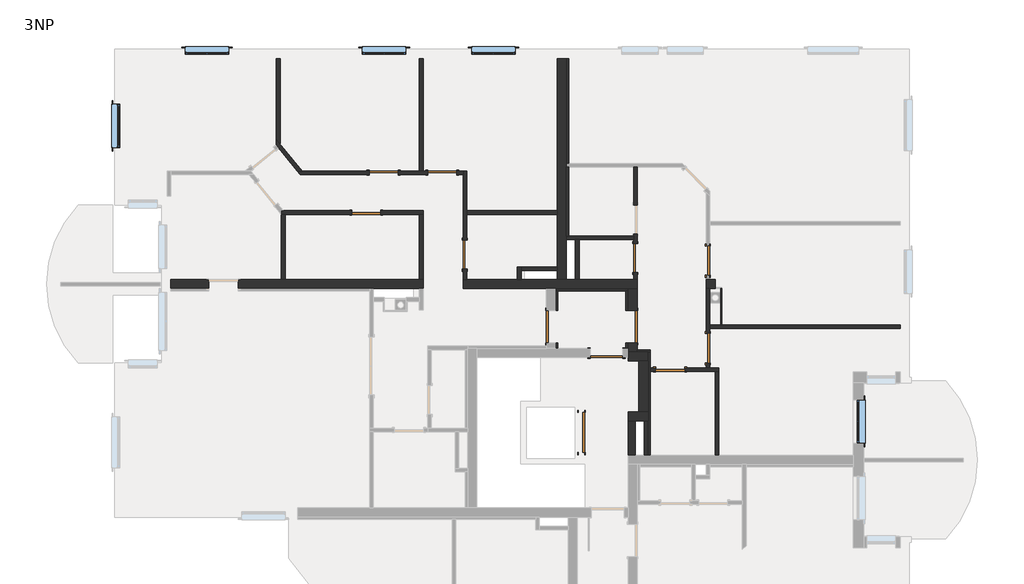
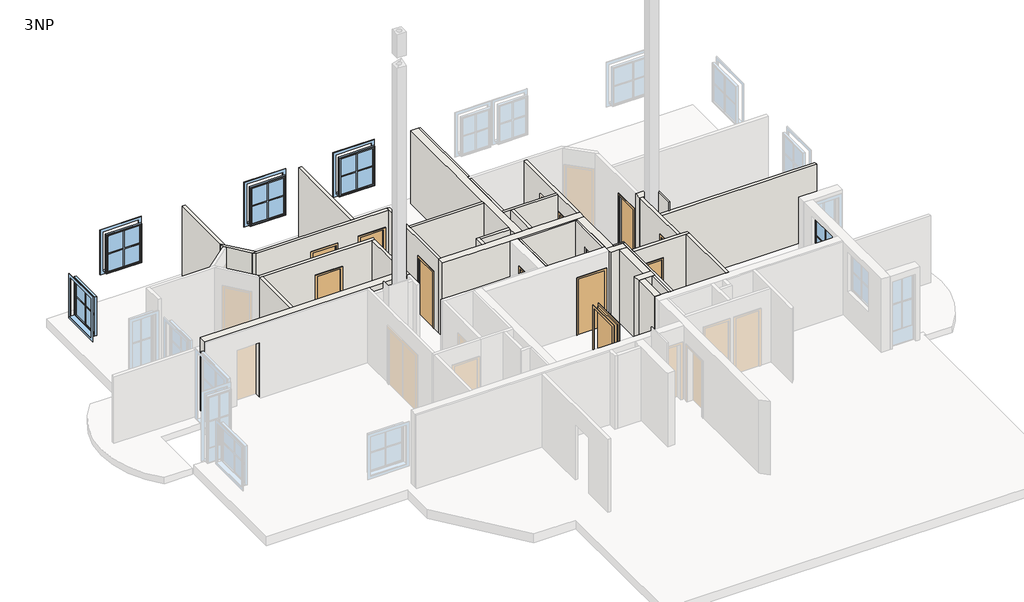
# One storey, part 3 of 4: 36 walls, 12 doors, 5 windows.
"""IFC4 building model written with IfcOpenShell, lengths in millimetres."""

import ifcopenshell
import ifcopenshell.guid

model = None  # the IFC model being written
_history = None  # IfcOwnerHistory: only IFC2X3 demands one
_inside = {}  # id of a spatial element -> (the spatial element, [elements in it])
_under = {}  # id of a project, library or spatial element -> (it, [spatial elements below it])
_declared = {}  # id of a project -> (the project, [libraries it declares])
_typed = {}  # id of a type object -> (the type object, [elements of that type])
_made_of = {}  # id of a material, layer set ... -> (it, [elements and type objects made of it])


def new_model(schema):
    """Start an empty IFC model of exactly this schema.

    Asked for "IFC4X3", IfcOpenShell would pick the latest addendum, in which some entities
    have other attributes; the version numbers below select the first issue.
    IFC2X3 requires an IfcOwnerHistory on every rooted entity: one is made here for all.
    """
    global model, _history
    if schema == "IFC4X3":
        model = ifcopenshell.file(schema_version=(4, 3, 0, 0))
    else:
        model = ifcopenshell.file(schema=schema)
    _inside.clear()
    _under.clear()
    _declared.clear()
    _typed.clear()
    _made_of.clear()
    _history = None
    if model.schema == "IFC2X3":
        org = make("IfcOrganization", Name="unknown")
        user = make(
            "IfcPersonAndOrganization",
            ThePerson=make("IfcPerson", FamilyName="unknown"),
            TheOrganization=org,
        )
        app = make(
            "IfcApplication",
            ApplicationDeveloper=org,
            Version="unknown",
            ApplicationFullName="unknown",
            ApplicationIdentifier="unknown",
        )
        _history = make(
            "IfcOwnerHistory",
            OwningUser=user,
            OwningApplication=app,
            ChangeAction="ADDED",
            CreationDate=0,
        )
    return model


def make(cls, **values):
    """One entity of the class cls with the attributes given. An attribute that is None is left unset."""
    return model.create_entity(
        cls, **{name: value for name, value in values.items() if value is not None}
    )


def rooted(cls, **values):
    """An entity with a GlobalId (a new one), such as an element, a storey or a relation."""
    return make(cls, GlobalId=ifcopenshell.guid.new(), OwnerHistory=_history, **values)


def si_unit(unit_type, name, prefix=None):
    """IfcSIUnit, for example si_unit("LENGTHUNIT", "METRE", prefix="MILLI")."""
    return make("IfcSIUnit", UnitType=unit_type, Prefix=prefix, Name=name)


def assignment(units):
    """IfcUnitAssignment: the units of a project."""
    return None if units is None else make("IfcUnitAssignment", Units=units)


def point(xyz):
    """IfcCartesianPoint."""
    return None if xyz is None else make("IfcCartesianPoint", Coordinates=xyz)


def direction(xyz):
    """IfcDirection."""
    return None if xyz is None else make("IfcDirection", DirectionRatios=xyz)


def frame(location, z_axis=None, x_axis=None):
    """IfcAxis2Placement3D, a coordinate frame: its origin and axes. An axis left out is left unset."""
    return make(
        "IfcAxis2Placement3D",
        Location=point(location),
        Axis=direction(z_axis),
        RefDirection=direction(x_axis),
    )


def origin():
    """The frame at (0, 0, 0) with its axes left unset."""
    return frame((0.0, 0.0, 0.0))


def origin_with_axes():
    """The frame at (0, 0, 0) with the z axis (0, 0, 1) and the x axis (1, 0, 0) written out."""
    return frame((0.0, 0.0, 0.0), z_axis=(0.0, 0.0, 1.0), x_axis=(1.0, 0.0, 0.0))


def place(relative_to, where):
    """IfcLocalPlacement: puts the frame where relative to a parent placement (None: the world)."""
    return make(
        "IfcLocalPlacement", PlacementRelTo=relative_to, RelativePlacement=where
    )


def context(
    kind, dimensions, precision=None, world=None, true_north=None, identifier=None
):
    """IfcGeometricRepresentationContext, for example the 3D "Model" context."""
    return make(
        "IfcGeometricRepresentationContext",
        ContextIdentifier=identifier,
        ContextType=kind,
        CoordinateSpaceDimension=dimensions,
        Precision=precision,
        WorldCoordinateSystem=world,
        TrueNorth=true_north,
    )


def project(units=None, contexts=None):
    """IfcProject with its units and contexts."""
    return rooted(
        "IfcProject",
        Name="project",
        RepresentationContexts=contexts,
        UnitsInContext=assignment(units),
    )


def spatial(cls, under=None, at=None, **own):
    """A site, building, storey or space (cls), placed at a placement, below another one or the project."""
    s = rooted(cls, ObjectPlacement=at, **own)
    if under is not None:
        _under.setdefault(under.id(), (under, []))[1].append(s)
    return s


def polyline(points):
    """IfcPolyline through the points."""
    return make("IfcPolyline", Points=[point(p) for p in points])


def outline(outer, holes=None, kind="AREA"):
    """IfcArbitraryClosedProfileDef: a profile drawn as a closed curve; with holes, ...WithVoids."""
    if holes is None:
        return make("IfcArbitraryClosedProfileDef", ProfileType=kind, OuterCurve=outer)
    return make(
        "IfcArbitraryProfileDefWithVoids",
        ProfileType=kind,
        OuterCurve=outer,
        InnerCurves=holes,
    )


def extrude(swept, where, along, depth):
    """IfcExtrudedAreaSolid: the profile swept, set in the frame where, extruded along a direction by depth."""
    return make(
        "IfcExtrudedAreaSolid",
        SweptArea=swept,
        Position=where,
        ExtrudedDirection=direction(along),
        Depth=depth,
    )


def faces_of(points, faces, orient=None, outer=None):
    """IfcFace entities. A face is a list of loops; a loop is a list of indices into points, from 0.

    orient and outer hold one flag for each loop. By default every Orientation is true, the
    first loop of a face is its IfcFaceOuterBound and the others are IfcFaceBound.
    """
    made = []
    for i, loops in enumerate(faces):
        bounds = []
        for j, loop in enumerate(loops):
            is_outer = j == 0 if outer is None else outer[i][j]
            bounds.append(
                make(
                    "IfcFaceOuterBound" if is_outer else "IfcFaceBound",
                    Bound=make("IfcPolyLoop", Polygon=[points[k] for k in loop]),
                    Orientation=True if orient is None else orient[i][j],
                )
            )
        made.append(make("IfcFace", Bounds=bounds))
    return made


def faceted_brep(points, faces, orient=None, outer=None, voids=None):
    """IfcFacetedBrep: a solid bounded by flat faces; with voids (closed shells), ...WithVoids."""
    shared = [point(p) for p in points]
    hull = make("IfcClosedShell", CfsFaces=faces_of(shared, faces, orient, outer))
    if voids is None:
        return make("IfcFacetedBrep", Outer=hull)
    return make(
        "IfcFacetedBrepWithVoids",
        Outer=hull,
        Voids=[
            make(cls, CfsFaces=faces_of(shared, fs, o, b)) for cls, fs, o, b in voids
        ],
    )


def shape(context_of_items, identifier, shape_type, items):
    """IfcShapeRepresentation: the items that make up one representation, for example the "Body"."""
    return make(
        "IfcShapeRepresentation",
        ContextOfItems=context_of_items,
        RepresentationIdentifier=identifier,
        RepresentationType=shape_type,
        Items=items,
    )


def source(mapping_origin, context_of_items, identifier, shape_type, items):
    """IfcRepresentationMap: a shape defined once, which mapped items show again and again."""
    return make(
        "IfcRepresentationMap",
        MappingOrigin=mapping_origin,
        MappedRepresentation=shape(context_of_items, identifier, shape_type, items),
    )


def transform(
    local_origin,
    x_axis=None,
    y_axis=None,
    z_axis=None,
    scale=None,
    scale2=None,
    scale3=None,
    uniform=True,
):
    """IfcCartesianTransformationOperator3D, or its non-uniform kind. x_axis, y_axis, z_axis: its Axis1, 2, 3."""
    if uniform:
        return make(
            "IfcCartesianTransformationOperator3D",
            Axis1=direction(x_axis),
            Axis2=direction(y_axis),
            LocalOrigin=point(local_origin),
            Scale=scale,
            Axis3=direction(z_axis),
        )
    return make(
        "IfcCartesianTransformationOperator3DnonUniform",
        Axis1=direction(x_axis),
        Axis2=direction(y_axis),
        LocalOrigin=point(local_origin),
        Scale=scale,
        Axis3=direction(z_axis),
        Scale2=scale2,
        Scale3=scale3,
    )


def mapped(mapping_source, mapping_target):
    """IfcMappedItem: shows the shape of a source again, moved by a transform."""
    return make(
        "IfcMappedItem", MappingSource=mapping_source, MappingTarget=mapping_target
    )


def made_of(thing, what):
    """Note that an element or type object is made of a material, layer set ...; save() writes the relation."""
    if what is not None:
        _made_of.setdefault(what.id(), (what, []))[1].append(thing)
    return thing


def element(
    cls,
    number,
    at=None,
    inside=None,
    cuts=None,
    type_object=None,
    material=None,
    context=None,
    identifier="Body",
    shape_type=None,
    held_by="IfcProductDefinitionShape",
    body=None,
    shapes=None,
    **own,
):
    """One element of the class cls, such as IfcWall. Its Tag is "e" and its number.

    at: its placement. inside: the storey or other place that contains it. cuts: it is an
    opening in that element (IfcRelVoidsElement). A single representation is given by context,
    identifier, shape_type and body (its items); several are given by shapes. held_by: the class
    of the entity that holds the representations. save() writes the other relations.
    """
    e = rooted(cls, Tag="e%d" % number, ObjectPlacement=at, **own)
    if body is not None:
        shapes = [shape(context, identifier, shape_type, body)]
    if shapes is not None:
        e.Representation = make(held_by, Representations=shapes)
    if inside is not None:
        _inside.setdefault(inside.id(), (inside, []))[1].append(e)
    if cuts is not None:
        rooted(
            "IfcRelVoidsElement", RelatingBuildingElement=cuts, RelatedOpeningElement=e
        )
    if type_object is not None:
        _typed.setdefault(type_object.id(), (type_object, []))[1].append(e)
    return made_of(e, material)


def aggregate(whole, parts):
    """IfcRelAggregates: a whole, such as a stair, and the parts it consists of."""
    return rooted("IfcRelAggregates", RelatingObject=whole, RelatedObjects=parts)


def save(model, path):
    """Write the relations noted so far, then the file.

    IfcRelAggregates (storeys below a building ...), IfcRelContainedInSpatialStructure (elements
    in a storey), IfcRelDefinesByType, IfcRelAssociatesMaterial and IfcRelDeclares: one each for
    every whole, place, type object, material and project.
    """
    for whole, parts in _under.values():
        aggregate(whole, parts)
    for where, things in _inside.values():
        rooted(
            "IfcRelContainedInSpatialStructure",
            RelatedElements=things,
            RelatingStructure=where,
        )
    for kind, things in _typed.values():
        rooted("IfcRelDefinesByType", RelatedObjects=things, RelatingType=kind)
    for what, things in _made_of.values():
        rooted("IfcRelAssociatesMaterial", RelatedObjects=things, RelatingMaterial=what)
    for by, libraries in _declared.values():
        rooted("IfcRelDeclares", RelatingContext=by, RelatedDefinitions=libraries)
    model.write(path)


def sd_1100x2000_1d62120a(model_context):
    return source(origin(), model_context, "Body", "SweptSolid", [
        extrude(outline(polyline([(2060.0, -610.0), (0.0, -610.0), (0.0, -550.0), (2000.0, -550.0), (2000.0, 550.0), (0.0, 550.0), (0.0, 610.0), (2060.0, 610.0), (2060.0, -610.0)])), frame((0.0, 85.0, 0.0), z_axis=(0.0, 1.0, 0.0), x_axis=(0.0, 0.0, 1.0)), (0.0, 0.0, 1.0), 20.0),
        extrude(outline(polyline([(2060.0, 610.0), (2060.0, -610.0), (0.0, -610.0), (0.0, -550.0), (2000.0, -550.0), (2000.0, 550.0), (0.0, 550.0), (0.0, 610.0), (2060.0, 610.0)])), frame((0.0, -105.0, 0.0), z_axis=(0.0, 1.0, 0.0), x_axis=(0.0, 0.0, 1.0)), (0.0, 0.0, 1.0), 20.0),
        extrude(outline(polyline([(550.0, 35.0), (-550.0, 35.0), (-550.0, 85.0), (550.0, 85.0), (550.0, 35.0)])), origin_with_axes(), (0.0, 0.0, 1.0), 2000.0),
    ])


def sd_800x2000_6a16926d(model_context):
    return source(origin(), model_context, "Body", "SweptSolid", [
        extrude(outline(polyline([(2060.0, -460.0), (0.0, -460.0), (0.0, -400.0), (2000.0, -400.0), (2000.0, 400.0), (0.0, 400.0), (0.0, 460.0), (2060.0, 460.0), (2060.0, -460.0)])), frame((0.0, -70.0, 0.0), z_axis=(0.0, 1.0, 0.0), x_axis=(0.0, 0.0, 1.0)), (0.0, 0.0, 1.0), 20.0),
        extrude(outline(polyline([(2060.0, 460.0), (2060.0, -460.0), (0.0, -460.0), (0.0, -400.0), (2000.0, -400.0), (2000.0, 400.0), (0.0, 400.0), (0.0, 460.0), (2060.0, 460.0)])), frame((0.0, 50.0, 0.0), z_axis=(0.0, 1.0, 0.0), x_axis=(0.0, 0.0, 1.0)), (0.0, 0.0, 1.0), 20.0),
        extrude(outline(polyline([(400.0, 0.0), (400.0, -50.0), (-400.0, -50.0), (-400.0, 0.0), (400.0, 0.0)])), origin_with_axes(), (0.0, 0.0, 1.0), 2000.0),
    ])


def sd_800x2000_80f4ff25(model_context):
    return source(origin(), model_context, "Body", "SweptSolid", [
        extrude(outline(polyline([(2060.0, -460.0), (0.0, -460.0), (0.0, -400.0), (2000.0, -400.0), (2000.0, 400.0), (0.0, 400.0), (0.0, 460.0), (2060.0, 460.0), (2060.0, -460.0)])), frame((0.0, 50.0, 0.0), z_axis=(0.0, 1.0, 0.0), x_axis=(0.0, 0.0, 1.0)), (0.0, 0.0, 1.0), 20.0),
        extrude(outline(polyline([(2060.0, 460.0), (2060.0, -460.0), (0.0, -460.0), (0.0, -400.0), (2000.0, -400.0), (2000.0, 400.0), (0.0, 400.0), (0.0, 460.0), (2060.0, 460.0)])), frame((0.0, -70.0, 0.0), z_axis=(0.0, 1.0, 0.0), x_axis=(0.0, 0.0, 1.0)), (0.0, 0.0, 1.0), 20.0),
        extrude(outline(polyline([(400.0, 0.0), (-400.0, 0.0), (-400.0, 50.0), (400.0, 50.0), (400.0, 0.0)])), origin_with_axes(), (0.0, 0.0, 1.0), 2000.0),
    ])


def sd_900x2000_a6683946(model_context):
    return source(origin(), model_context, "Body", "SweptSolid", [
        extrude(outline(polyline([(2060.0, -510.0), (0.0, -510.0), (0.0, -450.0), (2000.0, -450.0), (2000.0, 450.0), (0.0, 450.0), (0.0, 510.0), (2060.0, 510.0), (2060.0, -510.0)])), frame((0.0, -145.0, 0.0), z_axis=(0.0, 1.0, 0.0), x_axis=(0.0, 0.0, 1.0)), (0.0, 0.0, 1.0), 20.0),
        extrude(outline(polyline([(2060.0, 510.0), (2060.0, -510.0), (0.0, -510.0), (0.0, -450.0), (2000.0, -450.0), (2000.0, 450.0), (0.0, 450.0), (0.0, 510.0), (2060.0, 510.0)])), frame((0.0, 125.0, 0.0), z_axis=(0.0, 1.0, 0.0), x_axis=(0.0, 0.0, 1.0)), (0.0, 0.0, 1.0), 20.0),
        extrude(outline(polyline([(450.0, -75.0), (450.0, -125.0), (-450.0, -125.0), (-450.0, -75.0), (450.0, -75.0)])), origin_with_axes(), (0.0, 0.0, 1.0), 2000.0),
    ])


def sd_900x2000_4224ae2a(model_context):
    return source(origin(), model_context, "Body", "SweptSolid", [
        extrude(outline(polyline([(2060.0, -510.0), (0.0, -510.0), (0.0, -450.0), (2000.0, -450.0), (2000.0, 450.0), (0.0, 450.0), (0.0, 510.0), (2060.0, 510.0), (2060.0, -510.0)])), frame((0.0, 125.0, 0.0), z_axis=(0.0, 1.0, 0.0), x_axis=(0.0, 0.0, 1.0)), (0.0, 0.0, 1.0), 20.0),
        extrude(outline(polyline([(2060.0, 510.0), (2060.0, -510.0), (0.0, -510.0), (0.0, -450.0), (2000.0, -450.0), (2000.0, 450.0), (0.0, 450.0), (0.0, 510.0), (2060.0, 510.0)])), frame((0.0, -145.0, 0.0), z_axis=(0.0, 1.0, 0.0), x_axis=(0.0, 0.0, 1.0)), (0.0, 0.0, 1.0), 20.0),
        extrude(outline(polyline([(450.0, 75.0), (-450.0, 75.0), (-450.0, 125.0), (450.0, 125.0), (450.0, 75.0)])), origin_with_axes(), (0.0, 0.0, 1.0), 2000.0),
    ])


def standard_window_with_mullions_80486b60(model_context):
    return source(origin(), model_context, "Body", "SweptSolid", [
        extrude(outline(polyline([(600.0, 26.9623738), (-600.0, 26.9623738), (-600.0, 180.0), (600.0, 180.0), (600.0, 26.9623738)])), frame((0.0, 0.0, 1000.0), z_axis=(0.0, 0.0, 1.0), x_axis=(1.0, 0.0, 0.0)), (0.0, 0.0, 1.0), 25.0),
        extrude(outline(polyline([(2500.0, -700.0), (900.0, -700.0), (900.0, 700.0), (2500.0, 700.0), (2500.0, -700.0)]), holes=[polyline([(2400.0, -600.0), (2400.0, 600.0), (1000.0, 600.0), (1000.0, -600.0), (2400.0, -600.0)])]), frame((0.0, 150.0, 0.0), z_axis=(0.0, 1.0, 0.0), x_axis=(0.0, 0.0, 1.0)), (0.0, 0.0, 1.0), 15.0),
        extrude(outline(polyline([(2375.0, -575.0), (1025.0, -575.0), (1025.0, 575.0), (2375.0, 575.0), (2375.0, -575.0)]), holes=[polyline([(2340.0, -540.0), (2340.0, 540.0), (1060.0, 540.0), (1060.0, -540.0), (2340.0, -540.0)])]), frame((0.0, -39.0188131, 0.0), z_axis=(0.0, 1.0, 0.0), x_axis=(0.0, 0.0, 1.0)), (0.0, 0.0, 1.0), 50.5),
        extrude(outline(polyline([(1000.0, -600.0), (1000.0, 600.0), (2400.0, 600.0), (2400.0, -600.0), (1000.0, -600.0)]), holes=[polyline([(1025.0, -575.0), (2375.0, -575.0), (2375.0, 575.0), (1025.0, 575.0), (1025.0, -575.0)])]), frame((0.0, -39.0188131, 0.0), z_axis=(0.0, 1.0, 0.0), x_axis=(0.0, 0.0, 1.0)), (0.0, 0.0, 1.0), 65.9811869),
        extrude(outline(polyline([(1715.0, 540.0), (1715.0, 15.0), (2340.0, 15.0), (2340.0, -15.0), (1715.0, -15.0), (1715.0, -540.0), (1685.0, -540.0), (1685.0, -15.0), (1060.0, -15.0), (1060.0, 15.0), (1685.0, 15.0), (1685.0, 540.0), (1715.0, 540.0)])), frame((0.0, -28.5188131, 0.0), z_axis=(0.0, 1.0, 0.0), x_axis=(0.0, 0.0, 1.0)), (0.0, 0.0, 1.0), 20.0),
        extrude(outline(polyline([(540.0, -15.5188131), (-540.0, -15.5188131), (-540.0, -13.5188131), (540.0, -13.5188131), (540.0, -15.5188131)])), frame((0.0, 0.0, 1060.0), z_axis=(0.0, 0.0, 1.0), x_axis=(1.0, 0.0, 0.0)), (0.0, 0.0, 1.0), 1280.0),
    ])


model = new_model("IFC4")

# Units and contexts
model_context = context("Model", 3, world=origin())
ifc_project = project(units=[si_unit("LENGTHUNIT", "METRE", prefix="MILLI")], contexts=[model_context])

# Site, building, storey
site = spatial("IfcSite", under=ifc_project)
building = spatial("IfcBuilding", under=site)
storey = spatial("IfcBuildingStorey", under=building, Name="3NP", Elevation=5900.0)

# Doors
placement = place(None, origin())
sd_1100x2000_shape = sd_1100x2000_1d62120a(model_context)
element("IfcDoor", 1, ObjectType="JednokridlePlne : SD 1100x2000", at=placement, inside=storey, context=model_context, shape_type="MappedRepresentation", body=[
    mapped(sd_1100x2000_shape, transform((277.8037835, 250.1290541, 5900.0), x_axis=(0.0, -1.0, 0.0), y_axis=(1.0, 0.0, 0.0), z_axis=(0.0, 0.0, 1.0))),
])
sd_800x2000_shape = sd_800x2000_6a16926d(model_context)
element("IfcDoor", 2, ObjectType="JednokridlePlne : SD 800x2000", at=placement, inside=storey, context=model_context, shape_type="MappedRepresentation", body=[
    mapped(sd_800x2000_shape, transform((2717.8037831, 1986.2076978, 5900.0), x_axis=(1.0, 0.0, 0.0), y_axis=(0.0, 1.0, 0.0), z_axis=(0.0, 0.0, 1.0))),
])
element("IfcDoor", 3, ObjectType="JednokridlePlne : SD 800x2000", at=placement, inside=storey, context=model_context, shape_type="MappedRepresentation", body=[
    mapped(sd_800x2000_shape, transform((-5174.2767874, 7417.6290541, 5900.0), x_axis=(-1.0, 0.0, 0.0), y_axis=(0.0, -1.0, 0.0), z_axis=(0.0, 0.0, 1.0))),
])
element("IfcDoor", 4, ObjectType="JednokridlePlne : SD 800x2000", at=placement, inside=storey, context=model_context, shape_type="MappedRepresentation", body=[
    mapped(sd_800x2000_shape, transform((-2937.1962165, 5153.56811, 5900.0), x_axis=(0.0, -0.9999999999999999, 0.0), y_axis=(0.9999999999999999, 0.0, 0.0), z_axis=(0.0, 0.0, 1.0))),
])
sd_800x2000_2_shape = sd_800x2000_80f4ff25(model_context)
element("IfcDoor", 5, ObjectType="JednokridlePlne : SD 800x2000", at=placement, inside=storey, context=model_context, shape_type="MappedRepresentation", body=[
    mapped(sd_800x2000_2_shape, transform((-3559.5684451, 7417.6290541, 5900.0), x_axis=(1.0, 0.0, 0.0), y_axis=(0.0, 1.0, 0.0), z_axis=(0.0, 0.0, 1.0))),
])
element("IfcDoor", 6, ObjectType="JednokridlePlne : SD 800x2000", at=placement, inside=storey, context=model_context, shape_type="MappedRepresentation", body=[
    mapped(sd_800x2000_2_shape, transform((-5654.3517261, 6317.6290541, 5900.0), x_axis=(-1.0, 0.0, 0.0), y_axis=(0.0, -1.0, 0.0), z_axis=(0.0, 0.0, 1.0))),
])
element("IfcDoor", 7, ObjectType="JednokridlePlne : SD 800x2000", at=placement, inside=storey, context=model_context, shape_type="MappedRepresentation", body=[
    mapped(sd_800x2000_2_shape, transform((3762.8037835, 2576.2076972, 5900.0), x_axis=(0.0, -1.0, 0.0), y_axis=(1.0, 0.0, 0.0), z_axis=(0.0, 0.0, 1.0))),
])
element("IfcDoor", 8, ObjectType="JednokridlePlne : SD 800x2000", at=placement, inside=storey, context=model_context, shape_type="MappedRepresentation", body=[
    mapped(sd_800x2000_2_shape, transform((3762.8037835, 4988.8717038, 5900.0), x_axis=(0.0, -1.0, 0.0), y_axis=(1.0, 0.0, 0.0), z_axis=(0.0, 0.0, 1.0))),
])
element("IfcDoor", 9, ObjectType="JednokridlePlne : SD 800x2000", at=placement, inside=storey, context=model_context, shape_type="MappedRepresentation", body=[
    mapped(sd_800x2000_2_shape, transform((1762.8037835, 5063.1824611, 5900.0), x_axis=(0.0, 1.0, 0.0), y_axis=(-1.0, 0.0, 0.0), z_axis=(0.0, 0.0, 1.0))),
])
sd_900x2000_shape = sd_900x2000_a6683946(model_context)
element("IfcDoor", 10, ObjectType="JednokridlePlne : SD 900x2000", at=placement, inside=storey, context=model_context, shape_type="MappedRepresentation", body=[
    mapped(sd_900x2000_shape, transform((1687.8037835, 3171.1987133, 5900.0), x_axis=(0.0, 1.0, 0.0), y_axis=(-1.0, 0.0, 0.0), z_axis=(0.0, 0.0, 1.0))),
])
sd_900x2000_2_shape = sd_900x2000_4224ae2a(model_context)
element("IfcDoor", 11, ObjectType="JednokridlePlne : SD 900x2000", at=placement, inside=storey, context=model_context, shape_type="MappedRepresentation", body=[
    mapped(sd_900x2000_2_shape, transform((967.0786115, 2442.6290541, 5900.0), x_axis=(-1.0, 0.0, 0.0), y_axis=(0.0, -1.0, 0.0), z_axis=(0.0, 0.0, 1.0))),
])
element("IfcDoor", 12, ObjectType="JednokridlePlne : SD 900x2000", at=placement, inside=storey, context=model_context, shape_type="MappedRepresentation", body=[
    mapped(sd_900x2000_2_shape, transform((-562.1962165, 3171.1987133, 5900.0), x_axis=(0.0, 1.0, 0.0), y_axis=(-1.0, 0.0, 0.0), z_axis=(0.0, 0.0, 1.0))),
])

# Walls
element("IfcWall", 13, ObjectType="Interior - 100mm", at=placement, inside=storey, context=model_context, shape_type="SweptSolid", body=[
    extrude(outline(polyline([(-7989.734861, 4467.6290541), (-7989.734861, 6267.6290541), (-7889.734861, 6267.6290541), (-7889.734861, 4467.6290541), (-7989.734861, 4467.6290541)])), frame((0.0, 0.0, 5900.0), z_axis=(0.0, 0.0, 1.0), x_axis=(1.0, 0.0, 0.0)), (0.0, 0.0, 1.0), 2630.0),
])
element("IfcWall", 14, ObjectType="Interior - 100mm", at=placement, inside=storey, context=model_context, shape_type="Brep", body=[
    faceted_brep([(-7989.734861, 6267.6290541, 5900.0), (-7889.734861, 6267.6290541, 5900.0), (-6054.3517261, 6267.6290541, 5900.0), (-6054.3517261, 6267.6290541, 7900.0), (-5254.3517261, 6267.6290541, 7900.0), (-5254.3517261, 6267.6290541, 5900.0), (-4187.1962165, 6267.6290541, 5900.0), (-4087.1962165, 6267.6290541, 5900.0), (-4087.1962165, 6267.6290541, 8530.0), (-4187.1962165, 6267.6290541, 8530.0), (-7889.734861, 6267.6290541, 8530.0), (-7989.734861, 6267.6290541, 8530.0), (-6054.3517261, 6367.6290541, 7900.0), (-6054.3517261, 6367.6290541, 5900.0), (-7942.2621811, 6367.6290541, 5900.0), (-7989.734861, 6367.6290541, 5900.0), (-7989.734861, 6367.6290541, 8530.0), (-7942.2621811, 6367.6290541, 8530.0), (-4087.1962165, 6367.6290541, 8530.0), (-4087.1962165, 6367.6290541, 5900.0), (-5254.3517261, 6367.6290541, 5900.0), (-5254.3517261, 6367.6290541, 7900.0)], [[[0, 1, 2, 3, 4, 5, 6, 7, 8, 9, 10, 11]], [[12, 13, 14, 15, 16, 17, 18, 19, 20, 21]], [[15, 14, 13, 2, 1, 0]], [[20, 19, 7, 6, 5]], [[8, 7, 19, 18]], [[0, 11, 16, 15]], [[11, 10, 9, 8, 18, 17, 16]], [[3, 2, 13, 12]], [[4, 3, 12, 21]], [[5, 4, 21, 20]]]),
])
element("IfcWall", 15, ObjectType="Interior - 100mm", at=placement, inside=storey, context=model_context, shape_type="SweptSolid", body=[
    extrude(outline(polyline([(-4187.1962165, 4467.6290541), (-4187.1962165, 6267.6290541), (-4087.1962165, 6267.6290541), (-4087.1962165, 4467.6290541), (-4187.1962165, 4467.6290541)])), frame((0.0, 0.0, 5900.0), z_axis=(0.0, 0.0, 1.0), x_axis=(1.0, 0.0, 0.0)), (0.0, 0.0, 1.0), 2630.0),
])
element("IfcWall", 16, ObjectType="Interior - 100mm", at=placement, inside=storey, context=model_context, shape_type="Brep", body=[
    faceted_brep([(-2887.1962165, 4467.6290541, 5900.0), (-2887.1962165, 4753.56811, 5900.0), (-2887.1962165, 4753.56811, 7900.0), (-2887.1962165, 5553.56811, 7900.0), (-2887.1962165, 5553.56811, 5900.0), (-2887.1962165, 6267.6290541, 5900.0), (-2887.1962165, 6367.6290541, 5900.0), (-2887.1962165, 7467.6290541, 5900.0), (-2887.1962165, 7467.6290541, 8530.0), (-2887.1962165, 6367.6290541, 8530.0), (-2887.1962165, 6267.6290541, 8530.0), (-2887.1962165, 4467.6290541, 8530.0), (-2987.1962165, 4753.56811, 7900.0), (-2987.1962165, 4753.56811, 5900.0), (-2987.1962165, 4467.6290541, 5900.0), (-2987.1962165, 4467.6290541, 8530.0), (-2987.1962165, 7367.6290541, 8530.0), (-2987.1962165, 7467.6290541, 8530.0), (-2987.1962165, 7467.6290541, 5900.0), (-2987.1962165, 7367.6290541, 5900.0), (-2987.1962165, 5553.56811, 5900.0), (-2987.1962165, 5553.56811, 7900.0)], [[[0, 1, 2, 3, 4, 5, 6, 7, 8, 9, 10, 11]], [[12, 13, 14, 15, 16, 17, 18, 19, 20, 21]], [[14, 13, 1, 0]], [[20, 19, 18, 7, 6, 5, 4]], [[8, 7, 18, 17]], [[0, 11, 15, 14]], [[11, 10, 9, 8, 17, 16, 15]], [[2, 1, 13, 12]], [[3, 2, 12, 21]], [[4, 3, 21, 20]]]),
])
element("IfcWall", 17, ObjectType="Interior - 100mm", at=placement, inside=storey, context=model_context, shape_type="Brep", body=[
    faceted_brep([(-5574.2767874, 7467.6290541, 7900.0), (-5574.2767874, 7467.6290541, 5900.0), (-7420.0627022, 7467.6290541, 5900.0), (-7549.1227781, 7467.6290541, 5900.0), (-7549.1227781, 7467.6290541, 8530.0), (-7420.0627022, 7467.6290541, 8530.0), (-4187.1962165, 7467.6290541, 8530.0), (-4087.1962165, 7467.6290541, 8530.0), (-2987.1962165, 7467.6290541, 8530.0), (-2987.1962165, 7467.6290541, 5900.0), (-3159.5684451, 7467.6290541, 5900.0), (-3159.5684451, 7467.6290541, 7900.0), (-3959.5684451, 7467.6290541, 7900.0), (-3959.5684451, 7467.6290541, 5900.0), (-4087.1962165, 7467.6290541, 5900.0), (-4187.1962165, 7467.6290541, 5900.0), (-4774.2767874, 7467.6290541, 5900.0), (-4774.2767874, 7467.6290541, 7900.0), (-7467.5353821, 7367.6290541, 5900.0), (-5574.2767874, 7367.6290541, 5900.0), (-5574.2767874, 7367.6290541, 7900.0), (-4774.2767874, 7367.6290541, 7900.0), (-4774.2767874, 7367.6290541, 5900.0), (-3959.5684451, 7367.6290541, 5900.0), (-3959.5684451, 7367.6290541, 7900.0), (-3159.5684451, 7367.6290541, 7900.0), (-3159.5684451, 7367.6290541, 5900.0), (-2987.1962165, 7367.6290541, 5900.0), (-2987.1962165, 7367.6290541, 8530.0), (-7467.5353821, 7367.6290541, 8530.0)], [[[0, 1, 2, 3, 4, 5, 6, 7, 8, 9, 10, 11, 12, 13, 14, 15, 16, 17]], [[18, 19, 20, 21, 22, 23, 24, 25, 26, 27, 28, 29]], [[27, 26, 10, 9]], [[3, 2, 1, 19, 18]], [[16, 15, 14, 13, 23, 22]], [[4, 3, 18, 29]], [[9, 8, 28, 27]], [[8, 7, 6, 5, 4, 29, 28]], [[11, 10, 26, 25]], [[12, 11, 25, 24]], [[13, 12, 24, 23]], [[20, 19, 1, 0]], [[21, 20, 0, 17]], [[22, 21, 17, 16]]]),
])
element("IfcWall", 18, ObjectType="Interior - 100mm", at=placement, inside=storey, context=model_context, shape_type="SweptSolid", body=[
    extrude(outline(polyline([(-387.1962165, 6267.6290541), (-2887.1962165, 6267.6290541), (-2887.1962165, 6367.6290541), (-387.1962165, 6367.6290541), (-387.1962165, 6267.6290541)])), frame((0.0, 0.0, 5900.0), z_axis=(0.0, 0.0, 1.0), x_axis=(1.0, 0.0, 0.0)), (0.0, 0.0, 1.0), 2630.0),
])
element("IfcWall", 19, ObjectType="Interior - 100mm", at=placement, inside=storey, context=model_context, shape_type="Brep", body=[
    faceted_brep([(-1387.1962165, 4467.6290541, 5900.0), (-1387.1962165, 4717.6290541, 5900.0), (-1387.1962165, 4817.6290541, 5900.0), (-1387.1962165, 4817.6290541, 8530.0), (-1387.1962165, 4717.6290541, 8530.0), (-1387.1962165, 4467.6290541, 8530.0), (-1487.1962165, 4467.6290541, 5900.0), (-1487.1962165, 4467.6290541, 8530.0), (-1487.1962165, 4817.6290541, 8530.0), (-1487.1962165, 4817.6290541, 5900.0)], [[[0, 1, 2, 3, 4, 5]], [[6, 7, 8, 9]], [[2, 1, 0, 6, 9]], [[3, 2, 9, 8]], [[0, 5, 7, 6]], [[5, 4, 3, 8, 7]]]),
])
element("IfcWall", 20, ObjectType="Interior - 100mm", at=placement, inside=storey, context=model_context, shape_type="Brep", body=[
    faceted_brep([(-1387.1962165, 4717.6290541, 5900.0), (-387.1962165, 4717.6290541, 5900.0), (-387.1962165, 4717.6290541, 8530.0), (-1287.1962165, 4717.6290541, 8530.0), (-1387.1962165, 4717.6290541, 8530.0), (-1387.1962165, 4817.6290541, 5900.0), (-1387.1962165, 4817.6290541, 8530.0), (-387.1962165, 4817.6290541, 8530.0), (-387.1962165, 4817.6290541, 5900.0)], [[[0, 1, 2, 3, 4]], [[5, 6, 7, 8]], [[1, 0, 5, 8]], [[2, 1, 8, 7]], [[0, 4, 6, 5]], [[4, 3, 2, 7, 6]]]),
])
element("IfcWall", 21, ObjectType="Interior - 100mm", at=placement, inside=storey, context=model_context, shape_type="Brep", body=[
    faceted_brep([(3117.8037831, 1936.2076978, 7900.0), (3117.8037831, 1936.2076978, 5900.0), (3962.8037835, 1936.2076978, 5900.0), (4062.8037835, 1936.2076978, 5900.0), (4062.8037835, 1936.2076978, 8530.0), (3962.8037835, 1936.2076978, 8530.0), (2177.8037835, 1936.2076978, 8530.0), (2177.8037835, 1936.2076978, 5900.0), (2317.8037831, 1936.2076978, 5900.0), (2317.8037831, 1936.2076978, 7900.0), (4062.8037835, 2036.2076978, 5900.0), (3812.8037835, 2036.2076978, 5900.0), (3712.8037835, 2036.2076978, 5900.0), (3117.8037831, 2036.2076978, 5900.0), (3117.8037831, 2036.2076978, 7900.0), (2317.8037831, 2036.2076978, 7900.0), (2317.8037831, 2036.2076978, 5900.0), (2177.8037835, 2036.2076978, 5900.0), (2177.8037835, 2036.2076978, 8530.0), (3712.8037835, 2036.2076978, 8530.0), (3812.8037835, 2036.2076978, 8530.0), (4062.8037835, 2036.2076978, 8530.0)], [[[0, 1, 2, 3, 4, 5, 6, 7, 8, 9]], [[10, 11, 12, 13, 14, 15, 16, 17, 18, 19, 20, 21]], [[3, 2, 1, 13, 12, 11, 10]], [[8, 7, 17, 16]], [[4, 3, 10, 21]], [[7, 6, 18, 17]], [[6, 5, 4, 21, 20, 19, 18]], [[14, 13, 1, 0]], [[15, 14, 0, 9]], [[16, 15, 9, 8]]]),
])
element("IfcWall", 22, ObjectType="Interior - 100mm", at=placement, inside=storey, context=model_context, shape_type="SweptSolid", body=[
    extrude(outline(polyline([(3962.8037835, -382.3709459), (3962.8037835, 1936.2076978), (4062.8037835, 1936.2076978), (4062.8037835, -382.3709459), (3962.8037835, -382.3709459)])), frame((0.0, 0.0, 5900.0), z_axis=(0.0, 0.0, 1.0), x_axis=(1.0, 0.0, 0.0)), (0.0, 0.0, 1.0), 2630.0),
])
element("IfcWall", 23, ObjectType="Interior - 100mm", at=placement, inside=storey, context=model_context, shape_type="SweptSolid", body=[
    extrude(outline(polyline([(2012.8037835, -382.3709459), (2012.8037835, 567.6290541), (2112.8037835, 567.6290541), (2112.8037835, -382.3709459), (2012.8037835, -382.3709459)])), frame((0.0, 0.0, 5900.0), z_axis=(0.0, 0.0, 1.0), x_axis=(1.0, 0.0, 0.0)), (0.0, 0.0, 1.0), 2630.0),
])
element("IfcWall", 24, ObjectType="Interior - 100mm", at=placement, inside=storey, context=model_context, shape_type="Brep", body=[
    faceted_brep([(1712.8037835, 5727.9240135, 7900.0), (1712.8037835, 5727.9240135, 5900.0), (1712.8037835, 5667.6290541, 5900.0), (1712.8037835, 5567.6290541, 5900.0), (1712.8037835, 5463.1824611, 5900.0), (1712.8037835, 5463.1824611, 7900.0), (1712.8037835, 4663.1824611, 7900.0), (1712.8037835, 4663.1824611, 5900.0), (1712.8037835, 4467.6290541, 5900.0), (1712.8037835, 4467.6290541, 8530.0), (1712.8037835, 5567.6290541, 8530.0), (1712.8037835, 5667.6290541, 8530.0), (1712.8037835, 7567.6290541, 8530.0), (1712.8037835, 7567.6290541, 5900.0), (1712.8037835, 6527.9240135, 5900.0), (1712.8037835, 6527.9240135, 7900.0), (1812.8037835, 5463.1824611, 5900.0), (1812.8037835, 5727.9240135, 5900.0), (1812.8037835, 5727.9240135, 7900.0), (1812.8037835, 6527.9240135, 7900.0), (1812.8037835, 6527.9240135, 5900.0), (1812.8037835, 7567.6290541, 5900.0), (1812.8037835, 7567.6290541, 8530.0), (1812.8037835, 4467.6290541, 8530.0), (1812.8037835, 4467.6290541, 5900.0), (1812.8037835, 4663.1824611, 5900.0), (1812.8037835, 4663.1824611, 7900.0), (1812.8037835, 5463.1824611, 7900.0)], [[[0, 1, 2, 3, 4, 5, 6, 7, 8, 9, 10, 11, 12, 13, 14, 15]], [[16, 17, 18, 19, 20, 21, 22, 23, 24, 25, 26, 27]], [[4, 3, 2, 1, 17, 16]], [[25, 24, 8, 7]], [[14, 13, 21, 20]], [[13, 12, 22, 21]], [[9, 8, 24, 23]], [[12, 11, 10, 9, 23, 22]], [[5, 4, 16, 27]], [[6, 5, 27, 26]], [[7, 6, 26, 25]], [[18, 17, 1, 0]], [[19, 18, 0, 15]], [[20, 19, 15, 14]]]),
])
element("IfcWall", 25, ObjectType="Interior - 100mm", at=placement, inside=storey, context=model_context, shape_type="Brep", body=[
    faceted_brep([(1712.8037835, 5667.6290541, 5900.0), (-137.1962165, 5667.6290541, 5900.0), (-137.1962165, 5667.6290541, 8530.0), (1712.8037835, 5667.6290541, 8530.0), (1712.8037835, 5567.6290541, 5900.0), (1712.8037835, 5567.6290541, 8530.0), (212.8037835, 5567.6290541, 8530.0), (112.8037835, 5567.6290541, 8530.0), (-137.1962165, 5567.6290541, 8530.0), (-137.1962165, 5567.6290541, 5900.0), (112.8037835, 5567.6290541, 5900.0), (212.8037835, 5567.6290541, 5900.0)], [[[0, 1, 2, 3]], [[4, 5, 6, 7, 8, 9, 10, 11]], [[1, 0, 4, 11, 10, 9]], [[2, 1, 9, 8]], [[0, 3, 5, 4]], [[3, 2, 8, 7, 6, 5]]]),
])
element("IfcWall", 26, ObjectType="Interior - 100mm", at=placement, inside=storey, context=model_context, shape_type="SweptSolid", body=[
    extrude(outline(polyline([(112.8037835, 4467.6290541), (112.8037835, 5567.6290541), (212.8037835, 5567.6290541), (212.8037835, 4467.6290541), (112.8037835, 4467.6290541)])), frame((0.0, 0.0, 5900.0), z_axis=(0.0, 0.0, 1.0), x_axis=(1.0, 0.0, 0.0)), (0.0, 0.0, 1.0), 2630.0),
])
element("IfcWall", 27, ObjectType="Interior - 100mm", at=placement, inside=storey, context=model_context, shape_type="Brep", body=[
    faceted_brep([(9062.8037835, 3216.2076978, 5900.0), (4142.8037835, 3216.2076978, 5900.0), (4112.8037835, 3216.2076978, 5900.0), (3812.8037835, 3216.2076978, 5900.0), (3812.8037835, 3216.2076978, 8530.0), (9062.8037835, 3216.2076978, 8530.0), (9062.8037835, 3116.2076978, 5900.0), (9062.8037835, 3116.2076978, 8530.0), (3812.8037835, 3116.2076978, 8530.0), (3812.8037835, 3116.2076978, 5900.0)], [[[0, 1, 2, 3, 4, 5]], [[6, 7, 8, 9]], [[3, 2, 1, 0, 6, 9]], [[4, 3, 9, 8]], [[0, 5, 7, 6]], [[5, 4, 8, 7]]]),
])
element("IfcWall", 28, ObjectType="Interior - 100mm", at=placement, inside=storey, context=model_context, shape_type="Brep", body=[
    faceted_brep([(3712.8037835, 2176.2076972, 7900.0), (3712.8037835, 2176.2076972, 5900.0), (3712.8037835, 2036.2076978, 5900.0), (3712.8037835, 2036.2076978, 8530.0), (3712.8037835, 4217.6290541, 8530.0), (3712.8037835, 4217.6290541, 5900.0), (3712.8037835, 2976.2076972, 5900.0), (3712.8037835, 2976.2076972, 7900.0), (3812.8037835, 2036.2076978, 5900.0), (3812.8037835, 2176.2076972, 5900.0), (3812.8037835, 2176.2076972, 7900.0), (3812.8037835, 2976.2076972, 7900.0), (3812.8037835, 2976.2076972, 5900.0), (3812.8037835, 3116.2076978, 5900.0), (3812.8037835, 3216.2076978, 5900.0), (3812.8037835, 3816.2076978, 5900.0), (3812.8037835, 4116.2076978, 5900.0), (3812.8037835, 4217.6290541, 5900.0), (3812.8037835, 4217.6290541, 8530.0), (3812.8037835, 3216.2076978, 8530.0), (3812.8037835, 3116.2076978, 8530.0), (3812.8037835, 2036.2076978, 8530.0)], [[[0, 1, 2, 3, 4, 5, 6, 7]], [[8, 9, 10, 11, 12, 13, 14, 15, 16, 17, 18, 19, 20, 21]], [[2, 1, 9, 8]], [[6, 5, 17, 16, 15, 14, 13, 12]], [[3, 2, 8, 21]], [[5, 4, 18, 17]], [[4, 3, 21, 20, 19, 18]], [[10, 9, 1, 0]], [[11, 10, 0, 7]], [[12, 11, 7, 6]]]),
])
element("IfcWall", 29, ObjectType="Interior - 100mm", at=placement, inside=storey, context=model_context, shape_type="Brep", body=[
    faceted_brep([(-7420.0627022, 7467.6290541, 5900.0), (-8028.1071844, 8212.8967207, 5900.0), (-8128.1071844, 8335.4646723, 5900.0), (-8128.1071844, 8335.4646723, 8530.0), (-8028.1071844, 8212.8967207, 8530.0), (-7420.0627022, 7467.6290541, 8530.0), (-7549.1227781, 7467.6290541, 5900.0), (-7549.1227781, 7467.6290541, 8530.0), (-8064.8905812, 8099.7950854, 8530.0), (-8128.1071844, 8177.278381, 8530.0), (-8128.1071844, 8177.278381, 5900.0), (-8064.8905812, 8099.7950854, 5900.0)], [[[0, 1, 2, 3, 4, 5]], [[6, 7, 8, 9, 10, 11]], [[2, 1, 0, 6, 11, 10]], [[3, 2, 10, 9]], [[0, 5, 7, 6]], [[5, 4, 3, 9, 8, 7]]]),
])
element("IfcWall", 30, ObjectType="Interior - 100mm", at=placement, inside=storey, context=model_context, shape_type="SweptSolid", body=[
    extrude(outline(polyline([(-8028.1071844, 10567.6290541), (-8028.1071844, 8212.8967207), (-8128.1071844, 8335.4646723), (-8128.1071844, 10567.6290541), (-8028.1071844, 10567.6290541)])), frame((0.0, 0.0, 5900.0), z_axis=(0.0, 0.0, 1.0), x_axis=(1.0, 0.0, 0.0)), (0.0, 0.0, 1.0), 2630.0),
])
element("IfcWall", 31, ObjectType="Interior - 100mm", at=placement, inside=storey, context=model_context, shape_type="SweptSolid", body=[
    extrude(outline(polyline([(-4087.1962165, 10567.6290541), (-4087.1962165, 7467.6290541), (-4187.1962165, 7467.6290541), (-4187.1962165, 10567.6290541), (-4087.1962165, 10567.6290541)])), frame((0.0, 0.0, 5900.0), z_axis=(0.0, 0.0, 1.0), x_axis=(1.0, 0.0, 0.0)), (0.0, 0.0, 1.0), 2630.0),
])
element("IfcWall", 32, ObjectType="Interior - 200mm", at=placement, inside=storey, context=model_context, shape_type="SweptSolid", body=[
    extrude(outline(polyline([(1562.8087381, -382.3709459), (1562.8087381, 567.6290541), (1762.8087381, 567.6290541), (1762.8087381, -382.3709459), (1562.8087381, -382.3709459)])), frame((0.0, 0.0, 5900.0), z_axis=(0.0, 0.0, 1.0), x_axis=(1.0, 0.0, 0.0)), (0.0, 0.0, 1.0), 2630.0),
])
element("IfcWall", 33, ObjectType="Interior - 250mm", at=placement, inside=storey, context=model_context, shape_type="Brep", body=[
    faceted_brep([(-11037.1962165, 4217.6290541, 5900.0), (-9988.4360939, 4217.6290541, 5900.0), (-9988.4360939, 4217.6290541, 7900.0), (-9188.4360939, 4217.6290541, 7900.0), (-9188.4360939, 4217.6290541, 5900.0), (-5557.1962165, 4217.6290541, 5900.0), (-5457.1962165, 4217.6290541, 5900.0), (-4187.1962165, 4217.6290541, 5900.0), (-4087.1962165, 4217.6290541, 5900.0), (-4087.1962165, 4217.6290541, 8530.0), (-4187.1962165, 4217.6290541, 8530.0), (-4357.1962165, 4217.6290541, 8530.0), (-5457.1962165, 4217.6290541, 8530.0), (-5557.1962165, 4217.6290541, 8530.0), (-11037.1962165, 4217.6290541, 8530.0), (-9988.4360939, 4467.6290541, 7900.0), (-9988.4360939, 4467.6290541, 5900.0), (-11037.1962165, 4467.6290541, 5900.0), (-11037.1962165, 4467.6290541, 8530.0), (-7989.734861, 4467.6290541, 8530.0), (-7889.734861, 4467.6290541, 8530.0), (-4187.1962165, 4467.6290541, 8530.0), (-4087.1962165, 4467.6290541, 8530.0), (-4087.1962165, 4467.6290541, 5900.0), (-4187.1962165, 4467.6290541, 5900.0), (-7889.734861, 4467.6290541, 5900.0), (-7989.734861, 4467.6290541, 5900.0), (-9188.4360939, 4467.6290541, 5900.0), (-9188.4360939, 4467.6290541, 7900.0)], [[[0, 1, 2, 3, 4, 5, 6, 7, 8, 9, 10, 11, 12, 13, 14]], [[15, 16, 17, 18, 19, 20, 21, 22, 23, 24, 25, 26, 27, 28]], [[17, 16, 1, 0]], [[27, 26, 25, 24, 23, 8, 7, 6, 5, 4]], [[9, 8, 23, 22]], [[0, 14, 18, 17]], [[14, 13, 12, 11, 10, 9, 22, 21, 20, 19, 18]], [[2, 1, 16, 15]], [[3, 2, 15, 28]], [[4, 3, 28, 27]]]),
])
element("IfcWall", 34, ObjectType="Interior - 250mm", at=placement, inside=storey, context=model_context, shape_type="Brep", body=[
    faceted_brep([(3712.8037835, 4217.6290541, 5900.0), (3812.8037835, 4217.6290541, 5900.0), (3962.8037835, 4217.6290541, 5900.0), (3962.8037835, 4217.6290541, 8530.0), (3812.8037835, 4217.6290541, 8530.0), (3712.8037835, 4217.6290541, 8530.0), (3712.8037835, 4467.6290541, 5900.0), (3712.8037835, 4467.6290541, 8530.0), (3812.8037835, 4467.6290541, 8530.0), (3962.8037835, 4467.6290541, 8530.0), (3962.8037835, 4467.6290541, 5900.0), (3812.8037835, 4467.6290541, 5900.0), (3962.8037835, 4247.6290541, 5900.0)], [[[0, 1, 2, 3, 4, 5]], [[6, 7, 8, 9, 10, 11]], [[2, 1, 0, 6, 11, 10, 12]], [[3, 2, 12, 10, 9]], [[0, 5, 7, 6]], [[5, 4, 3, 9, 8, 7]]]),
])
element("IfcWall", 35, ObjectType="Interior - 250mm", at=placement, inside=storey, context=model_context, shape_type="SweptSolid", body=[
    extrude(outline(polyline([(2112.8037835, 2217.6290541), (2112.8037835, 817.6290541), (1862.8037835, 817.6290541), (1862.8037835, 2217.6290541), (2112.8037835, 2217.6290541)])), frame((0.0, 0.0, 5900.0), z_axis=(0.0, 0.0, 1.0), x_axis=(1.0, 0.0, 0.0)), (0.0, 0.0, 1.0), 2630.0),
])
element("IfcWall", 36, ObjectType="Interior - 250mm", at=placement, inside=storey, context=model_context, shape_type="Brep", body=[
    faceted_brep([(2112.8037835, 2467.6290541, 5900.0), (1812.8037835, 2467.6290541, 5900.0), (1562.8037835, 2467.6290541, 5900.0), (1562.8037835, 2467.6290541, 8530.0), (1812.8037835, 2467.6290541, 8530.0), (2112.8037835, 2467.6290541, 8530.0), (2112.8037835, 2217.6290541, 5900.0), (2112.8037835, 2217.6290541, 8530.0), (1862.8037835, 2217.6290541, 8530.0), (1562.8037835, 2217.6290541, 8530.0), (1562.8037835, 2217.6290541, 5900.0), (1862.8037835, 2217.6290541, 5900.0), (1562.8037835, 2317.6290541, 5900.0), (1562.8037835, 2317.6290541, 8530.0)], [[[0, 1, 2, 3, 4, 5]], [[6, 7, 8, 9, 10, 11]], [[2, 1, 0, 6, 11, 10, 12]], [[3, 2, 12, 10, 9, 13]], [[0, 5, 7, 6]], [[5, 4, 3, 13, 9, 8, 7]]]),
])
element("IfcWall", 37, ObjectType="Interior - 250mm", at=placement, inside=storey, context=model_context, shape_type="Brep", body=[
    faceted_brep([(1812.8037835, 2467.6290541, 8530.0), (1812.8037835, 2467.6290541, 5900.0), (1812.8037835, 2522.6290541, 5900.0), (1812.8037835, 2721.1987133, 5900.0), (1812.8037835, 2721.1987133, 7900.0), (1812.8037835, 3621.1987133, 7900.0), (1812.8037835, 3621.1987133, 5900.0), (1812.8037835, 4217.6290541, 5900.0), (1812.8037835, 4217.6290541, 8530.0), (1812.8037835, 2522.6290541, 8530.0), (1562.8037835, 2467.6290541, 5900.0), (1562.8037835, 2467.6290541, 8530.0), (1562.8037835, 2567.6290541, 8530.0), (1562.8037835, 4152.6290541, 8530.0), (1562.8037835, 4217.6290541, 8530.0), (1562.8037835, 4217.6290541, 5900.0), (1562.8037835, 4152.6290541, 5900.0), (1562.8037835, 3621.1987133, 5900.0), (1562.8037835, 3621.1987133, 7900.0), (1562.8037835, 2721.1987133, 7900.0), (1562.8037835, 2721.1987133, 5900.0), (1562.8037835, 2567.6290541, 5900.0)], [[[0, 1, 2, 3, 4, 5, 6, 7, 8, 9]], [[10, 11, 12, 13, 14, 15, 16, 17, 18, 19, 20, 21]], [[1, 10, 21, 20, 3, 2]], [[15, 7, 6, 17, 16]], [[1, 0, 11, 10]], [[8, 7, 15, 14]], [[0, 9, 8, 14, 13, 12, 11]], [[18, 17, 6, 5]], [[19, 18, 5, 4]], [[20, 19, 4, 3]]]),
])
element("IfcWall", 38, ObjectType="Interior - 250mm", at=placement, inside=storey, context=model_context, shape_type="Brep", body=[
    faceted_brep([(-387.1962165, 10567.6290541, 5900.0), (-387.1962165, 6367.6290541, 5900.0), (-387.1962165, 6267.6290541, 5900.0), (-387.1962165, 4817.6290541, 5900.0), (-387.1962165, 4717.6290541, 5900.0), (-387.1962165, 4467.6290541, 5900.0), (-387.1962165, 4467.6290541, 8530.0), (-387.1962165, 4717.6290541, 8530.0), (-387.1962165, 4817.6290541, 8530.0), (-387.1962165, 6267.6290541, 8530.0), (-387.1962165, 6367.6290541, 8530.0), (-387.1962165, 10567.6290541, 8530.0), (-137.1962165, 10567.6290541, 5900.0), (-137.1962165, 10567.6290541, 8530.0), (-137.1962165, 7667.6290541, 8530.0), (-137.1962165, 7567.6290541, 8530.0), (-137.1962165, 5667.6290541, 8530.0), (-137.1962165, 5567.6290541, 8530.0), (-137.1962165, 4467.6290541, 8530.0), (-137.1962165, 4467.6290541, 5900.0), (-137.1962165, 5567.6290541, 5900.0), (-137.1962165, 5667.6290541, 5900.0), (-137.1962165, 7567.6290541, 5900.0), (-137.1962165, 7667.6290541, 5900.0)], [[[0, 1, 2, 3, 4, 5, 6, 7, 8, 9, 10, 11]], [[12, 13, 14, 15, 16, 17, 18, 19, 20, 21, 22, 23]], [[5, 4, 3, 2, 1, 0, 12, 23, 22, 21, 20, 19]], [[6, 5, 19, 18]], [[0, 11, 13, 12]], [[11, 10, 9, 8, 7, 6, 18, 17, 16, 15, 14, 13]]]),
])
element("IfcWall", 39, ObjectType="Interior - 250mm", at=placement, inside=storey, context=model_context, shape_type="Brep", body=[
    faceted_brep([(2112.8037835, 817.6290541, 5900.0), (1862.8037835, 817.6290541, 5900.0), (1562.8087381, 817.6290541, 5900.0), (1562.8087381, 817.6290541, 8530.0), (1862.8037835, 817.6290541, 8530.0), (2112.8037835, 817.6290541, 8530.0), (2112.8037835, 567.6290541, 5900.0), (2112.8037835, 567.6290541, 8530.0), (2012.8037835, 567.6290541, 8530.0), (1762.8087381, 567.6290541, 8530.0), (1562.8087381, 567.6290541, 8530.0), (1562.8087381, 567.6290541, 5900.0), (1762.8087381, 567.6290541, 5900.0), (2012.8037835, 567.6290541, 5900.0)], [[[0, 1, 2, 3, 4, 5]], [[6, 7, 8, 9, 10, 11, 12, 13]], [[2, 1, 0, 6, 13, 12, 11]], [[0, 5, 7, 6]], [[3, 2, 11, 10]], [[5, 4, 3, 10, 9, 8, 7]]]),
])
element("IfcWall", 40, ObjectType="Interior - 250mm", at=placement, inside=storey, context=model_context, shape_type="Brep", body=[
    faceted_brep([(-2987.1962165, 4217.6290541, 5900.0), (-687.1962165, 4217.6290541, 5900.0), (-437.1962165, 4217.6290541, 5900.0), (1562.8037835, 4217.6290541, 5900.0), (1812.8037835, 4217.6290541, 5900.0), (1812.8037835, 4217.6290541, 8530.0), (1562.8037835, 4217.6290541, 8530.0), (-437.1962165, 4217.6290541, 8530.0), (-687.1962165, 4217.6290541, 8530.0), (-2987.1962165, 4217.6290541, 8530.0), (-2987.1962165, 4467.6290541, 5900.0), (-2987.1962165, 4467.6290541, 8530.0), (-2887.1962165, 4467.6290541, 8530.0), (-1487.1962165, 4467.6290541, 8530.0), (-1387.1962165, 4467.6290541, 8530.0), (-1287.1962165, 4467.6290541, 8530.0), (-387.1962165, 4467.6290541, 8530.0), (-137.1962165, 4467.6290541, 8530.0), (112.8037835, 4467.6290541, 8530.0), (212.8037835, 4467.6290541, 8530.0), (1712.8037835, 4467.6290541, 8530.0), (1812.8037835, 4467.6290541, 8530.0), (1812.8037835, 4467.6290541, 5900.0), (1712.8037835, 4467.6290541, 5900.0), (212.8037835, 4467.6290541, 5900.0), (112.8037835, 4467.6290541, 5900.0), (-137.1962165, 4467.6290541, 5900.0), (-387.1962165, 4467.6290541, 5900.0), (-1387.1962165, 4467.6290541, 5900.0), (-1487.1962165, 4467.6290541, 5900.0), (-2887.1962165, 4467.6290541, 5900.0)], [[[0, 1, 2, 3, 4, 5, 6, 7, 8, 9]], [[10, 11, 12, 13, 14, 15, 16, 17, 18, 19, 20, 21, 22, 23, 24, 25, 26, 27, 28, 29, 30]], [[4, 3, 2, 1, 0, 10, 30, 29, 28, 27, 26, 25, 24, 23, 22]], [[0, 9, 11, 10]], [[5, 4, 22, 21]], [[9, 8, 7, 6, 5, 21, 20, 19, 18, 17, 16, 15, 14, 13, 12, 11]]]),
])
element("IfcWall", 41, ObjectType="Interior - 300mm", at=placement, inside=storey, context=model_context, shape_type="Brep", body=[
    faceted_brep([(4112.8037835, 4217.6290541, 5900.0), (4112.8037835, 4116.2076978, 5900.0), (4112.8037835, 3816.2076978, 5900.0), (4112.8037835, 3216.2076978, 5900.0), (4112.8037835, 3216.2076978, 8850.0), (4112.8037835, 4217.6290541, 8850.0), (4142.8037835, 4217.6290541, 5900.0), (4142.8037835, 4217.6290541, 8850.0), (4142.8037835, 3216.2076978, 8850.0), (4142.8037835, 3216.2076978, 5900.0)], [[[0, 1, 2, 3, 4, 5]], [[6, 7, 8, 9]], [[3, 2, 1, 0, 6, 9]], [[5, 4, 8, 7]], [[4, 3, 9, 8]], [[0, 5, 7, 6]]]),
])
element("IfcWall", 42, ObjectType="Interior - 65mm", at=placement, inside=storey, context=model_context, shape_type="Brep", body=[
    faceted_brep([(-437.1962165, 4152.6290541, 5900.0), (-372.1962165, 4152.6290541, 5900.0), (1497.8037835, 4152.6290541, 5900.0), (1562.8037835, 4152.6290541, 5900.0), (1562.8037835, 4152.6290541, 8530.0), (1497.8037835, 4152.6290541, 8530.0), (-372.1962165, 4152.6290541, 8530.0), (-437.1962165, 4152.6290541, 8530.0), (-437.1962165, 4217.6290541, 5900.0), (-437.1962165, 4217.6290541, 8530.0), (1562.8037835, 4217.6290541, 8530.0), (1562.8037835, 4217.6290541, 5900.0)], [[[0, 1, 2, 3, 4, 5, 6, 7]], [[8, 9, 10, 11]], [[3, 2, 1, 0, 8, 11]], [[4, 3, 11, 10]], [[0, 7, 9, 8]], [[7, 6, 5, 4, 10, 9]]]),
])
element("IfcWall", 43, ObjectType="Interior - 65mm", at=placement, inside=storey, context=model_context, shape_type="SweptSolid", body=[
    extrude(outline(polyline([(4152.6290541, 5900.0), (3621.1987133, 5900.0), (3621.1987133, 7900.0), (2721.1987133, 7900.0), (2721.1987133, 5900.0), (2567.6290541, 5900.0), (2567.6290541, 8530.0), (4152.6290541, 8530.0), (4152.6290541, 5900.0)])), frame((1497.8037835, 0.0, 0.0), z_axis=(1.0, 0.0, 0.0), x_axis=(0.0, 1.0, 0.0)), (0.0, 0.0, 1.0), 65.0),
])
element("IfcWall", 44, ObjectType="Interior - 65mm", at=placement, inside=storey, context=model_context, shape_type="Brep", body=[
    faceted_brep([(1812.8037835, 2457.6290541, 5900.0), (2112.8037835, 2457.6290541, 5900.0), (2177.8037835, 2457.6290541, 5900.0), (2177.8037835, 2457.6290541, 8530.0), (2112.8037835, 2457.6290541, 8530.0), (1812.8037835, 2457.6290541, 8530.0), (1812.8037835, 2522.6290541, 5900.0), (1812.8037835, 2522.6290541, 8530.0), (2177.8037835, 2522.6290541, 8530.0), (2177.8037835, 2522.6290541, 5900.0), (1812.8037835, 2467.6290541, 5900.0), (1812.8037835, 2467.6290541, 8530.0)], [[[0, 1, 2, 3, 4, 5]], [[6, 7, 8, 9]], [[2, 1, 0, 10, 6, 9]], [[3, 2, 9, 8]], [[0, 5, 11, 7, 6, 10]], [[5, 4, 3, 8, 7, 11]]]),
])
element("IfcWall", 45, ObjectType="Interior - 65mm", at=placement, inside=storey, context=model_context, shape_type="Brep", body=[
    faceted_brep([(2112.8037835, 2457.6290541, 5900.0), (2112.8037835, -382.3709459, 5900.0), (2112.8037835, -382.3709459, 8530.0), (2112.8037835, 2457.6290541, 8530.0), (2177.8037835, 2457.6290541, 5900.0), (2177.8037835, 2457.6290541, 8530.0), (2177.8037835, 2036.2076978, 8530.0), (2177.8037835, 1936.2076978, 8530.0), (2177.8037835, -382.3709459, 8530.0), (2177.8037835, -382.3709459, 5900.0), (2177.8037835, 1936.2076978, 5900.0), (2177.8037835, 2036.2076978, 5900.0)], [[[0, 1, 2, 3]], [[4, 5, 6, 7, 8, 9, 10, 11]], [[1, 0, 4, 11, 10, 9]], [[0, 3, 5, 4]], [[2, 1, 9, 8]], [[3, 2, 8, 7, 6, 5]]]),
])
element("IfcWall", 46, ObjectType="Interior - 65mm", at=placement, inside=storey, context=model_context, shape_type="SweptSolid", body=[
    extrude(outline(polyline([(-137.1962165, 7674.6749556), (-137.1962165, 10567.6290541), (-72.1962165, 10567.6290541), (-72.1962165, 7674.6749556), (-137.1962165, 7674.6749556)])), frame((0.0, 0.0, 5900.0), z_axis=(0.0, 0.0, 1.0), x_axis=(1.0, 0.0, 0.0)), (0.0, 0.0, 1.0), 2630.0),
])
element("IfcWall", 47, ObjectType="Interior - 65mm", at=placement, inside=storey, context=model_context, shape_type="SweptSolid", body=[
    extrude(outline(polyline([(-137.1962165, 5669.6052715), (-137.1962165, 7567.6290541), (-72.1962165, 7567.6290541), (-72.1962165, 5669.6052715), (-137.1962165, 5669.6052715)])), frame((0.0, 0.0, 5900.0), z_axis=(0.0, 0.0, 1.0), x_axis=(1.0, 0.0, 0.0)), (0.0, 0.0, 1.0), 2630.0),
])
element("IfcWall", 48, ObjectType="Interior - 65mm", at=placement, inside=storey, context=model_context, shape_type="SweptSolid", body=[
    extrude(outline(polyline([(4152.6290541, 5900.0), (3621.1987133, 5900.0), (3621.1987133, 7900.0), (2721.1987133, 7900.0), (2721.1987133, 5900.0), (2567.6290541, 5900.0), (2567.6290541, 8530.0), (4152.6290541, 8530.0), (4152.6290541, 5900.0)])), frame((-437.1962165, 0.0, 0.0), z_axis=(1.0, 0.0, 0.0), x_axis=(0.0, 1.0, 0.0)), (0.0, 0.0, 1.0), 65.0),
])

# Windows
standard_window_with_mullions_shape = standard_window_with_mullions_80486b60(model_context)
element("IfcWindow", 49, ObjectType="Standard Window with mullions : 1200/1400", at=placement, inside=storey, context=model_context, shape_type="MappedRepresentation", body=[
    mapped(standard_window_with_mullions_shape, transform((7912.8037835, 555.9947187, 5900.0), x_axis=(0.0, -1.0, 0.0), y_axis=(1.0, 0.0, 0.0), z_axis=(0.0, 0.0, 1.0))),
])
element("IfcWindow", 50, ObjectType="Standard Window with mullions : 1200/1400", at=placement, inside=storey, context=model_context, shape_type="MappedRepresentation", body=[
    mapped(standard_window_with_mullions_shape, transform((-12487.1962165, 8705.3927399, 5900.0), x_axis=(0.0, 1.0, 0.0), y_axis=(-1.0, 0.0, 0.0), z_axis=(0.0, 0.0, 1.0))),
])
element("IfcWindow", 51, ObjectType="Standard Window with mullions : 1200/1400", at=placement, inside=storey, context=model_context, shape_type="MappedRepresentation", body=[
    mapped(standard_window_with_mullions_shape, transform((-10042.4747669, 10717.6290541, 5900.0), x_axis=(1.0, 0.0, 0.0), y_axis=(0.0, 1.0, 0.0), z_axis=(0.0, 0.0, 1.0))),
])
element("IfcWindow", 52, ObjectType="Standard Window with mullions : 1200/1400", at=placement, inside=storey, context=model_context, shape_type="MappedRepresentation", body=[
    mapped(standard_window_with_mullions_shape, transform((-5160.5209693, 10717.6290541, 5900.0), x_axis=(1.0, 0.0, 0.0), y_axis=(0.0, 1.0, 0.0), z_axis=(0.0, 0.0, 1.0))),
])
element("IfcWindow", 53, ObjectType="Standard Window with mullions : 1200/1400", at=placement, inside=storey, context=model_context, shape_type="MappedRepresentation", body=[
    mapped(standard_window_with_mullions_shape, transform((-2148.3679777, 10717.6290541, 5900.0), x_axis=(1.0, 0.0, 0.0), y_axis=(0.0, 1.0, 0.0), z_axis=(0.0, 0.0, 1.0))),
])

save(model, "model.ifc")
